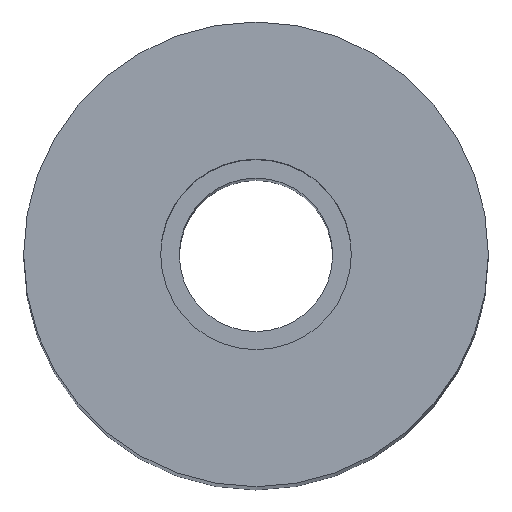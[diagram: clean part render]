
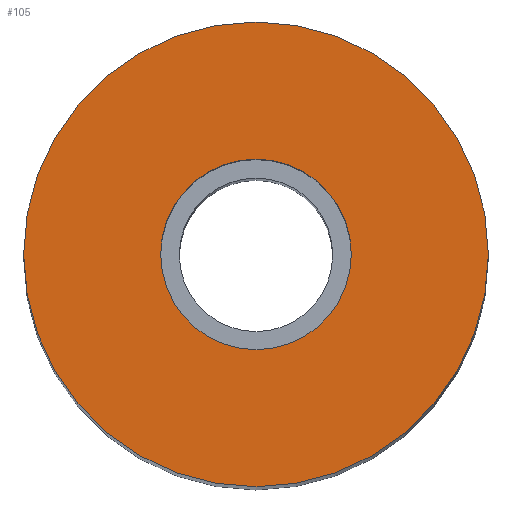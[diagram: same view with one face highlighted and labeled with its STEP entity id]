
A CAD part, top view. The second image highlights one B-rep face of the part: STEP entity #105.
In plain terms, the highlighted planar face has unit normal (0, 0, 1).
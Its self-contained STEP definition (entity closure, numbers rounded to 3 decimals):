
#21 = EDGE_CURVE('',#22,#22,#24,.T.);
#22 = VERTEX_POINT('',#23);
#23 = CARTESIAN_POINT('',(5.,0.,40.));
#24 = SURFACE_CURVE('',#25,(#30,#42),.PCURVE_S1.);
#25 = CIRCLE('',#26,5.);
#26 = AXIS2_PLACEMENT_3D('',#27,#28,#29);
#27 = CARTESIAN_POINT('',(0.,0.,40.));
#28 = DIRECTION('',(0.,0.,1.));
#29 = DIRECTION('',(1.,0.,-0.));
#30 = PCURVE('',#31,#36);
#31 = CYLINDRICAL_SURFACE('',#32,5.);
#32 = AXIS2_PLACEMENT_3D('',#33,#34,#35);
#33 = CARTESIAN_POINT('',(0.,0.,0.));
#34 = DIRECTION('',(0.,0.,1.));
#35 = DIRECTION('',(1.,0.,-0.));
#36 = DEFINITIONAL_REPRESENTATION('',(#37),#41);
#37 = LINE('',#38,#39);
#38 = CARTESIAN_POINT('',(0.,40.));
#39 = VECTOR('',#40,1.);
#40 = DIRECTION('',(1.,0.));
#41 = ( GEOMETRIC_REPRESENTATION_CONTEXT(2) 
PARAMETRIC_REPRESENTATION_CONTEXT() REPRESENTATION_CONTEXT('2D SPACE',''
  ) );
#42 = PCURVE('',#43,#48);
#43 = PLANE('',#44);
#44 = AXIS2_PLACEMENT_3D('',#45,#46,#47);
#45 = CARTESIAN_POINT('',(0.,0.,40.));
#46 = DIRECTION('',(0.,0.,1.));
#47 = DIRECTION('',(1.,0.,-0.));
#48 = DEFINITIONAL_REPRESENTATION('',(#49),#53);
#49 = CIRCLE('',#50,5.);
#50 = AXIS2_PLACEMENT_2D('',#51,#52);
#51 = CARTESIAN_POINT('',(0.,0.));
#52 = DIRECTION('',(1.,0.));
#53 = ( GEOMETRIC_REPRESENTATION_CONTEXT(2) 
PARAMETRIC_REPRESENTATION_CONTEXT() REPRESENTATION_CONTEXT('2D SPACE',''
  ) );
#105 = ADVANCED_FACE('',(#106,#109),#43,.T.);
#106 = FACE_BOUND('',#107,.T.);
#107 = EDGE_LOOP('',(#108));
#108 = ORIENTED_EDGE('',*,*,#21,.T.);
#109 = FACE_BOUND('',#110,.T.);
#110 = EDGE_LOOP('',(#111));
#111 = ORIENTED_EDGE('',*,*,#112,.F.);
#112 = EDGE_CURVE('',#113,#113,#115,.T.);
#113 = VERTEX_POINT('',#114);
#114 = CARTESIAN_POINT('',(2.05,0.,40.));
#115 = SURFACE_CURVE('',#116,(#121,#128),.PCURVE_S1.);
#116 = CIRCLE('',#117,2.05);
#117 = AXIS2_PLACEMENT_3D('',#118,#119,#120);
#118 = CARTESIAN_POINT('',(0.,0.,40.));
#119 = DIRECTION('',(0.,0.,1.));
#120 = DIRECTION('',(1.,0.,-0.));
#121 = PCURVE('',#43,#122);
#122 = DEFINITIONAL_REPRESENTATION('',(#123),#127);
#123 = CIRCLE('',#124,2.05);
#124 = AXIS2_PLACEMENT_2D('',#125,#126);
#125 = CARTESIAN_POINT('',(0.,0.));
#126 = DIRECTION('',(1.,0.));
#127 = ( GEOMETRIC_REPRESENTATION_CONTEXT(2) 
PARAMETRIC_REPRESENTATION_CONTEXT() REPRESENTATION_CONTEXT('2D SPACE',''
  ) );
#128 = PCURVE('',#129,#134);
#129 = CYLINDRICAL_SURFACE('',#130,2.05);
#130 = AXIS2_PLACEMENT_3D('',#131,#132,#133);
#131 = CARTESIAN_POINT('',(0.,0.,34.));
#132 = DIRECTION('',(0.,0.,1.));
#133 = DIRECTION('',(1.,0.,-0.));
#134 = DEFINITIONAL_REPRESENTATION('',(#135),#139);
#135 = LINE('',#136,#137);
#136 = CARTESIAN_POINT('',(0.,6.));
#137 = VECTOR('',#138,1.);
#138 = DIRECTION('',(1.,0.));
#139 = ( GEOMETRIC_REPRESENTATION_CONTEXT(2) 
PARAMETRIC_REPRESENTATION_CONTEXT() REPRESENTATION_CONTEXT('2D SPACE',''
  ) );
